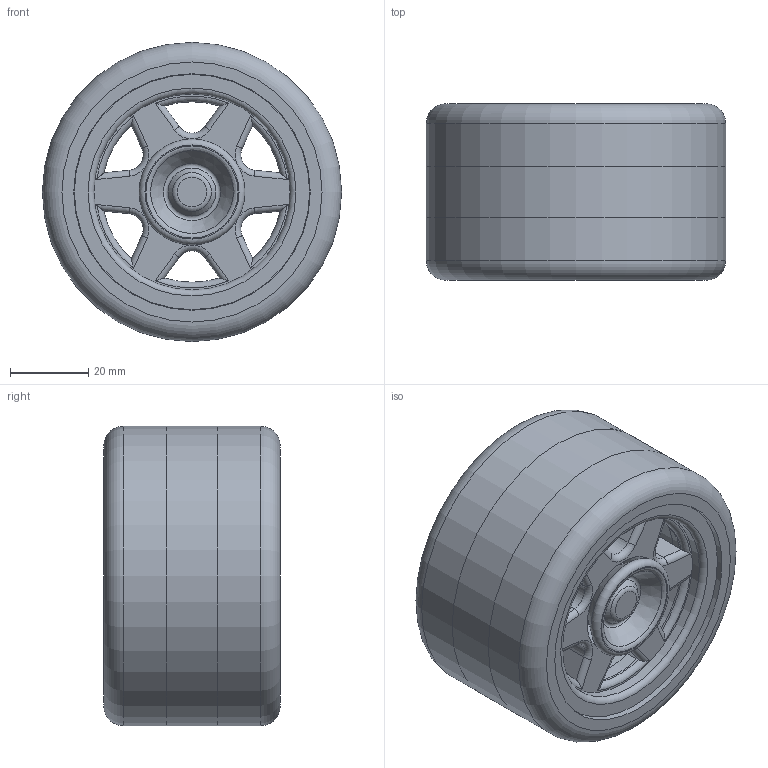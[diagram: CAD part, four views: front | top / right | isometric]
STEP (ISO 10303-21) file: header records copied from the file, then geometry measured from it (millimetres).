
FILE_DESCRIPTION( ( '' ), ' ' );
FILE_NAME( '/vol/tmp/translate-1946827675998298916/5a79bfba055db9100f99c661.step', '2018-02-06T14:46:19', ( '' ), ( '' ), ' ', ' ', ' ' );
FILE_SCHEMA( ( 'AUTOMOTIVE_DESIGN { 1 0 10303 214 1 1 1 1 }' ) );
Length unit declared in the file: metre
Products named in the file (6): Part 6; Part 5; Part 4; Part 3; Part 2; Part 1
Bounding box: 76.3 x 45 x 76.3 mm (x, y, z)
Volume: 118290.3 mm3; surface area: 100667.5 mm2
Topology: 6 solids, 6 shells, 214 faces, 458 edges, 278 vertices
Faces by surface type: cylinder 100, plane 70, torus 38, cone 6
Full cylindrical faces by diameter (mm): 8 x2, 18 x2, 26 x2, 50 x4, 53 x6, 53.5 x4, 60 x8, 60.3 x4, 64 x4, 74 x2, 76.3 x2
Entity records: 7462 total; most frequent: CARTESIAN_POINT 1146, DIRECTION 1028, ORIENTED_EDGE 780, AXIS2_PLACEMENT_3D 442, EDGE_CURVE 390, EDGE_LOOP 328, VERTEX_POINT 272, FACE_OUTER_BOUND 268
